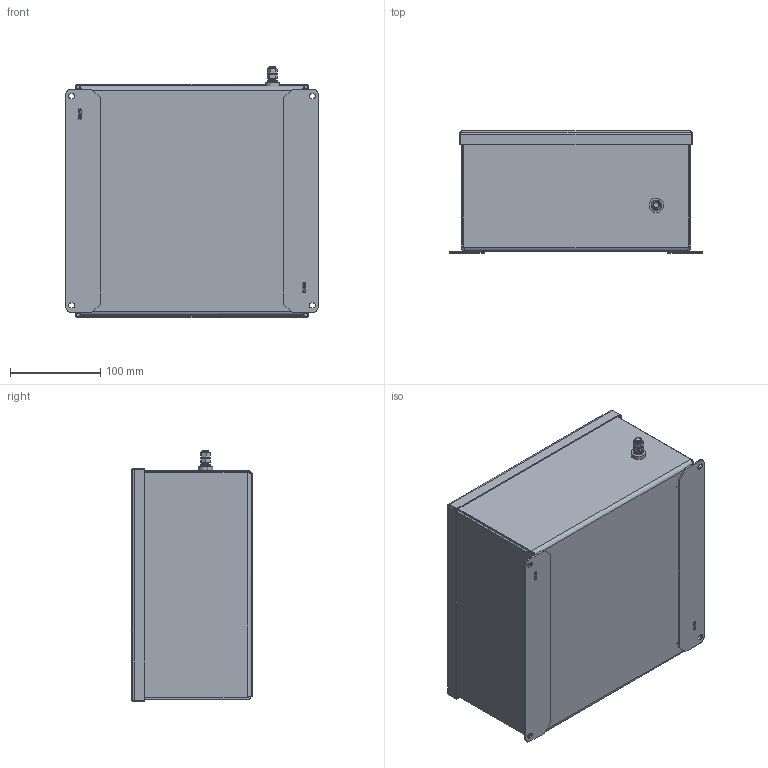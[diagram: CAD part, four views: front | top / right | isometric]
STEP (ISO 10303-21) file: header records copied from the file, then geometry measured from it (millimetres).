
FILE_DESCRIPTION (( 'STEP AP203' ), '1' );
FILE_NAME ('exe10105ss6.STEP', '2011-10-10T19:00:17', ( 'Hoffman User' ), ( 'Hoffman Enclosures' ), 'SwSTEP 2.0', 'SolidWorks 2010', '' );
FILE_SCHEMA (( 'CONFIG_CONTROL_DESIGN' ));
Length unit declared in the file: inch
Products named in the file (15): exe10105ss6; 89068309; 89068308; 89068310; 58110002; 54106002; 89068305; 89068304; 99412037_Config-Drawing; 89069667; 89071483; 89067422; 89067427; 21158239; 99414199_94150A345
Assembly tree (26 placements, depth 3):
  exe10105ss6
    89069667
    89068305
      99412037_Config-Drawing
      89068304
    89071483
      21158239  x3
      99414199_94150A345  x4
      89067427
      89067422
    89068309
      54106002  x4
      58110002  x4
      89068308
      89068310  x2
Bounding box: 279.4 x 134.87 x 278.39 mm (x, y, z)
Volume: 532019.3 mm3; surface area: 628529.8 mm2
Topology: 23 solids, 23 shells, 1189 faces, 2800 edges, 1682 vertices
Faces by surface type: plane 325, cylinder 322, cone 272, bspline 220, torus 50
Entity records: 31855 total; most frequent: CARTESIAN_POINT 13425, ORIENTED_EDGE 3592, DIRECTION 3046, EDGE_CURVE 1796, VERTEX_POINT 1093, AXIS2_PLACEMENT_3D 1046, LINE 954, VECTOR 954
